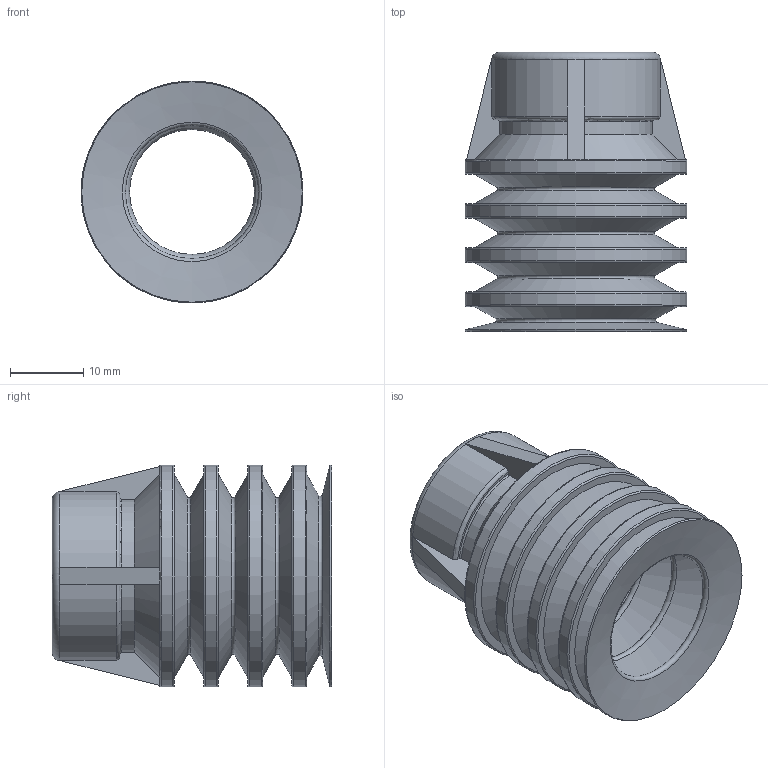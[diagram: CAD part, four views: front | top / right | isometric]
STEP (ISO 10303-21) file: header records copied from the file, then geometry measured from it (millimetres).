
FILE_DESCRIPTION(('STEP AP203'),'1');
FILE_NAME('HGL-30.stp','2025-02-19T01:56:56',(' '),(' '),'Spatial InterOp 3D',' ',' ');
FILE_SCHEMA(('CONFIG_CONTROL_DESIGN'));
Length unit declared in the file: millimetre
Products named in the file (1): 1
Bounding box: 30.2 x 38 x 30.2 mm (x, y, z)
Volume: 5846.1 mm3; surface area: 10038.8 mm2
Topology: 1 solids, 1 shells, 114 faces, 258 edges, 154 vertices
Faces by surface type: plane 42, torus 35, cone 22, cylinder 15
Full cylindrical faces by diameter (mm): 17 x2, 20 x1, 30.2 x4
Entity records: 3030 total; most frequent: CARTESIAN_POINT 649, DIRECTION 500, ORIENTED_EDGE 410, AXIS2_PLACEMENT_3D 220, EDGE_CURVE 205, EDGE_LOOP 176, VERTEX_POINT 153, FACE_OUTER_BOUND 148
